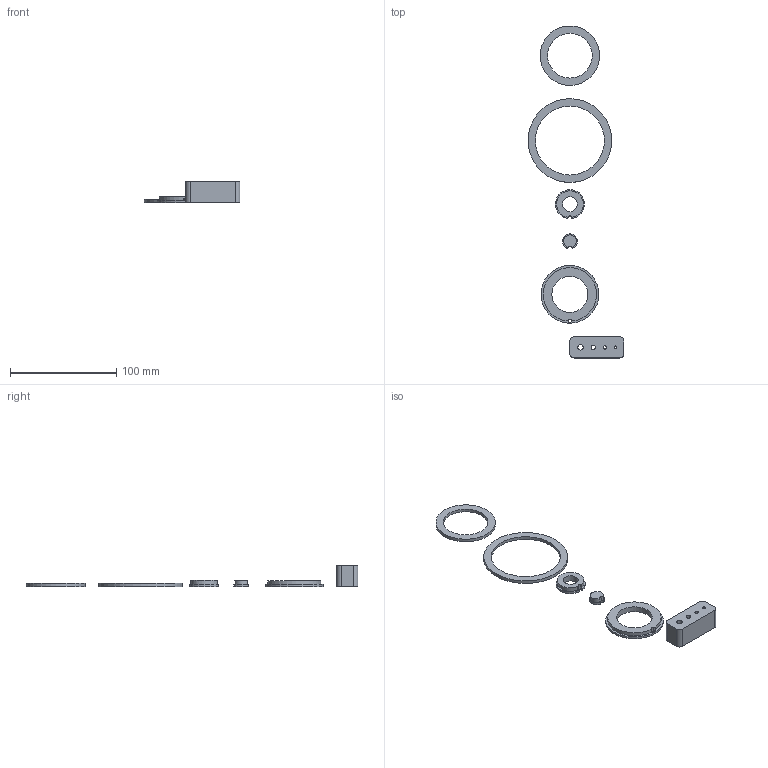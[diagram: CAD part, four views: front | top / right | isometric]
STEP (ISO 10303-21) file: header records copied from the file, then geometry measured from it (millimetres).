
FILE_DESCRIPTION(/* description */ ('CAx-IF Rec.Pracs.---Representation and Presentation of Product Manufacturing Information (PMI)---4.0---2014-10-13','CAx-IF Rec.Pracs.---3D Tessellated Geometry---0.4---2014-09-14','2;1'),/* implementation_level */ '2;1');
FILE_NAME(/* name */ 'qc1_t6_printer_calibration_tool_1',/* time_stamp */ '2026-07-24T03:42:44+03:00',/* author */ (''),/* organization */ (''),/* preprocessor_version */ 'ST-DEVELOPER v19.4',/* originating_system */ 'SIEMENS PLM Software NX2306.1700',/* authorisation */ $);
FILE_SCHEMA (('AP242_MANAGED_MODEL_BASED_3D_ENGINEERING_MIM_LF { 1 0 10303 442 3 1 4 }'));
Length unit declared in the file: millimetre
Products named in the file (1): qc1_t6_printer_calibration_tool_1
Bounding box: 90.5 x 313 x 20 mm (x, y, z)
Volume: 36324.4 mm3; surface area: 19760.9 mm2
Topology: 6 solids, 6 shells, 80 faces, 194 edges, 130 vertices
Faces by surface type: plane 47, cylinder 33
Full cylindrical faces by diameter (mm): 2.7 x1, 3 x1, 3.2 x1, 4.2 x1, 5.2 x1, 14 x1, 34 x1, 42.1 x1, 54.47 x1, 56 x1, 65.1 x1, 79 x1
Entity records: 2361 total; most frequent: DIRECTION 412, CARTESIAN_POINT 387, ORIENTED_EDGE 358, EDGE_CURVE 179, AXIS2_PLACEMENT_3D 152, VERTEX_POINT 127, EDGE_LOOP 114, FACE_BOUND 114
